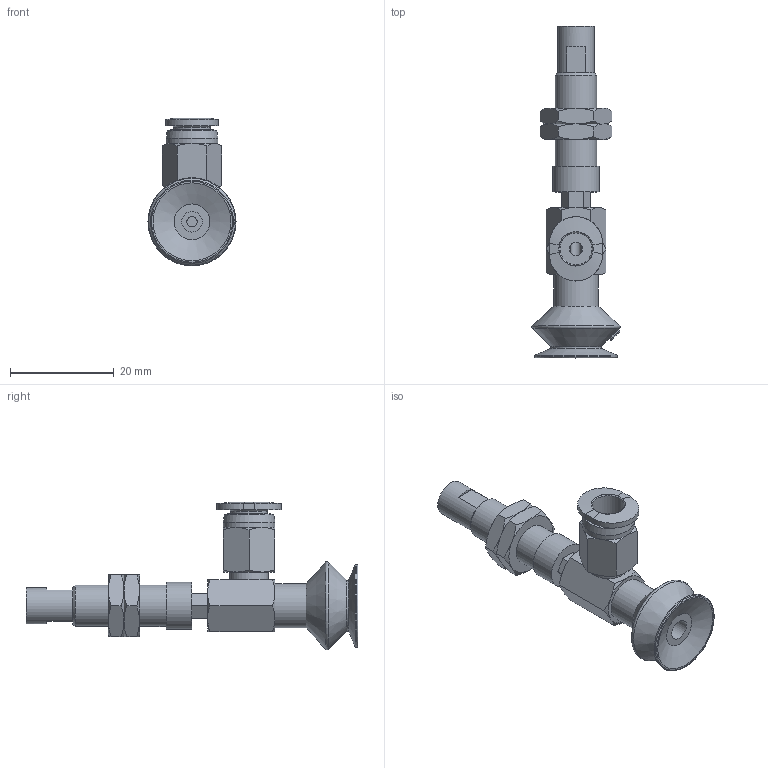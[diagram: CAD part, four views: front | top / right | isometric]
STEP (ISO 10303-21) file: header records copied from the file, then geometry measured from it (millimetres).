
FILE_DESCRIPTION(('STEP AP203'),'1');
FILE_NAME('-O.stp','2025-04-02T01:25:37',(' '),(' '),'Spatial InterOp 3D',' ',' ');
FILE_SCHEMA(('CONFIG_CONTROL_DESIGN'));
Length unit declared in the file: millimetre
Products named in the file (9): BNABPBYH-15A-3-※-O; CONNECTOR-15A-3-PB; Nut-15A-S-PB; NAPBTH-15A-3-FBODY; NAPBTH-15A-3-MBODY; BPBG-15A-※; __27; BPBG-15A; PC-C_06-M5
Assembly tree (9 placements, depth 3):
  BNABPBYH-15A-3-※-O
    CONNECTOR-15A-3-PB
    Nut-15A-S-PB  x2
    NAPBTH-15A-3-FBODY
    NAPBTH-15A-3-MBODY
    BPBG-15A-※
      __27
      BPBG-15A
    PC-C_06-M5
Bounding box: 17 x 64 x 28.48 mm (x, y, z)
Volume: 4477.7 mm3; surface area: 5953.2 mm2
Topology: 7 solids, 10 shells, 205 faces, 440 edges, 270 vertices
Faces by surface type: plane 81, cone 71, cylinder 25, torus 13, bspline 12, revolution 3
Full cylindrical faces by diameter (mm): 2 x1, 4 x5, 4.134 x2, 5 x2, 6 x2, 7 x2, 7.188 x2, 7.4 x1, 8 x1, 8.2 x1, 8.5 x1, 9 x1, 10 x1, 16 x1
Entity records: 6573 total; most frequent: CARTESIAN_POINT 2624, DIRECTION 704, ORIENTED_EDGE 646, EDGE_CURVE 325, AXIS2_PLACEMENT_3D 300, EDGE_LOOP 263, VERTEX_POINT 228, FACE_OUTER_BOUND 157
